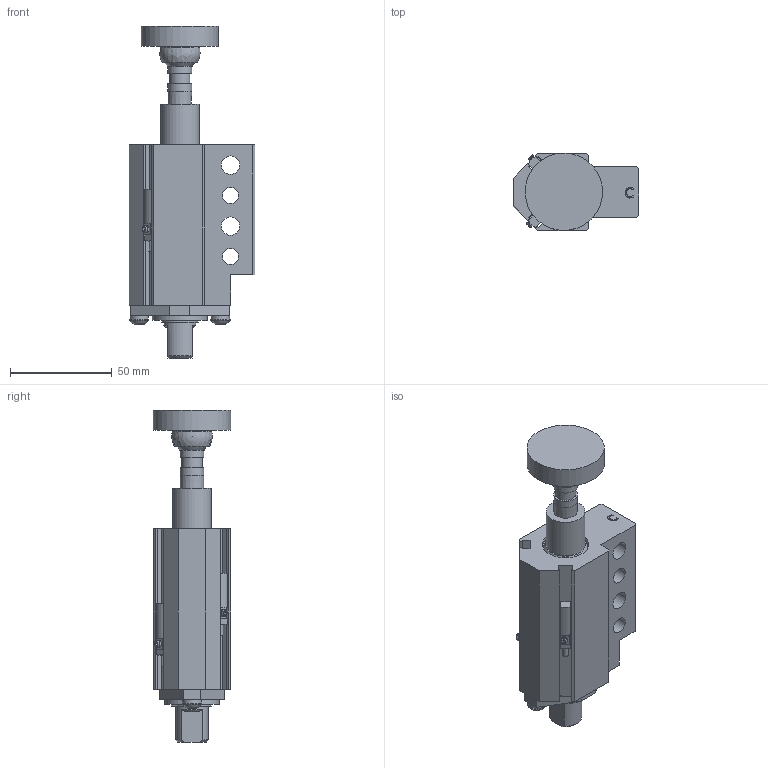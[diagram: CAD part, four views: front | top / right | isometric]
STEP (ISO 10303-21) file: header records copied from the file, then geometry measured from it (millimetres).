
FILE_DESCRIPTION(/* description */ ('MINI PASS THRU GROUND BLOCK'),/* implementation_level */ '2;1');
FILE_NAME(/* name */ 'C:\Vault Workspace\CAD\Welker\Cylinders\GBM\GBMBCL3.stp',/* time_stamp */ '2021-06-25T07:44:16-04:00',/* author */ ('KPL'),/* organization */ (''),/* preprocessor_version */ 'ST-DEVELOPER v18.1',/* originating_system */ 'Autodesk Inventor 2020',/* authorisation */ '');
FILE_SCHEMA (('AUTOMOTIVE_DESIGN { 1 0 10303 214 3 1 1 }'));
Products named in the file (11): GBML01; 91590A126; 96100A152; L3 Sensor 1; M5X0.8-10 BHCS; NL5; GBME01C; GBME02; GBME04; SN-1412; AN-05U2145
Assembly tree (13 placements, depth 2):
  GBML01
    91590A126
    96100A152
    L3 Sensor 1  x2
    M5X0.8-10 BHCS  x2
    NL5  x2
    GBME01C
    GBME02
    GBME04
    SN-1412
    AN-05U2145
Bounding box: 62 x 38.1 x 163.5 mm (x, y, z)
Volume: 141248 mm3; surface area: 51692.6 mm2
Topology: 13 solids, 13 shells, 445 faces, 1225 edges, 820 vertices
Faces by surface type: plane 304, cylinder 97, cone 18, bspline 18, torus 4, sphere 4
Full cylindrical faces by diameter (mm): 1.194 x2, 2.9 x2, 4.134 x2, 5 x2, 5.4 x2, 5.5 x2, 6.647 x1, 8 x2, 9 x4, 9.5 x2, 10 x1, 11.76 x2, 14.935 x1, 15.875 x3, 16.383 x1, 19.05 x1, 19.177 x1, 22.225 x2, 22.784 x1, 24.613 x1, 25.654 x1, 25.705 x1, 26.987 x1, 28.591 x1, 28.667 x1, 38.1 x1
Entity records: 10366 total; most frequent: CARTESIAN_POINT 1999, DIRECTION 1641, ORIENTED_EDGE 1630, EDGE_CURVE 815, AXIS2_PLACEMENT_3D 565, VERTEX_POINT 557, LINE 511, VECTOR 511
